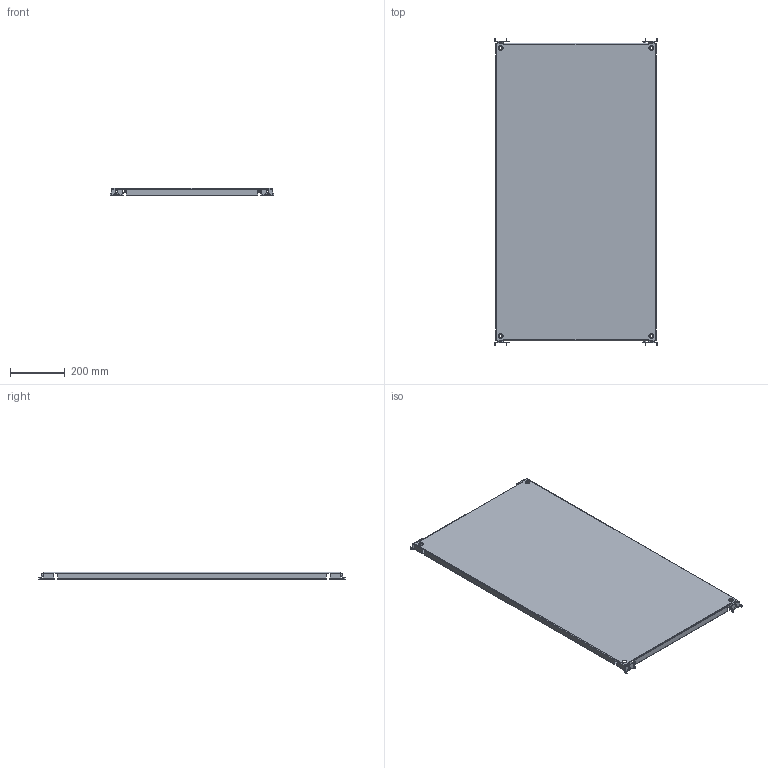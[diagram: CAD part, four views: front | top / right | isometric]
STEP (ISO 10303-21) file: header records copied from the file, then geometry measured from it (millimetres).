
FILE_DESCRIPTION (( 'STEP AP203' ), '1' );
FILE_NAME ('EUPZ-120070.step', '2015-11-24T08:39:05', ( 'Admin' ), ( '' ), 'SwSTEP 2.0', 'SolidWorks 2015', '' );
FILE_SCHEMA (( 'CONFIG_CONTROL_DESIGN' ));
Length unit declared in the file: millimetre
Products named in the file (9): EUPZ-120070; AR_Piastra_parziale_ENUX_1200x0700; AR_Squadretta_fissaggio_piastra_parziale_ENUX_DX; AR_Montaggio_squadretta_fissaggio_piastra_parziale_ENUX_DX_SUP_CON_PERNO; AR_Squadretta_fissaggio_piastra_parziale_ENUX_SX; AR_Montaggio_squadretta_fissaggio_piastra_parziale_ENUX_SX_SUP_CON_PERNO; AR_Montaggio_squadretta_fissaggio_piastra_parziale_ENUX_DX_INF_SENZA_PERNO; AR_Montaggio_squadretta_fissaggio_piastra_parziale_ENUX_SX_INF_SENZA_PERNO; Perno_squadretta_piastra_parziale_ENUX
Assembly tree (11 placements, depth 3):
  EUPZ-120070
    AR_Piastra_parziale_ENUX_1200x0700
    AR_Montaggio_squadretta_fissaggio_piastra_parziale_ENUX_DX_SUP_CON_PERNO
      AR_Squadretta_fissaggio_piastra_parziale_ENUX_DX
    AR_Montaggio_squadretta_fissaggio_piastra_parziale_ENUX_SX_SUP_CON_PERNO
      AR_Squadretta_fissaggio_piastra_parziale_ENUX_SX
    AR_Montaggio_squadretta_fissaggio_piastra_parziale_ENUX_DX_INF_SENZA_PERNO
      AR_Squadretta_fissaggio_piastra_parziale_ENUX_SX
    AR_Montaggio_squadretta_fissaggio_piastra_parziale_ENUX_SX_INF_SENZA_PERNO
      AR_Squadretta_fissaggio_piastra_parziale_ENUX_DX
    Perno_squadretta_piastra_parziale_ENUX  x2
Bounding box: 595.5 x 1117 x 27.5 mm (x, y, z)
Volume: 1886900.1 mm3; surface area: 1524728.2 mm2
Topology: 7 solids, 7 shells, 550 faces, 1412 edges, 876 vertices
Faces by surface type: plane 362, cylinder 180, cone 8
Entity records: 11667 total; most frequent: CARTESIAN_POINT 1906, DIRECTION 1844, ORIENTED_EDGE 1808, EDGE_CURVE 904, LINE 672, VECTOR 672, AXIS2_PLACEMENT_3D 586, VERTEX_POINT 552
